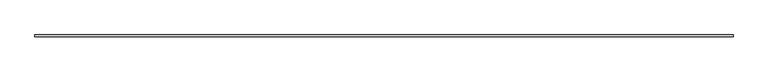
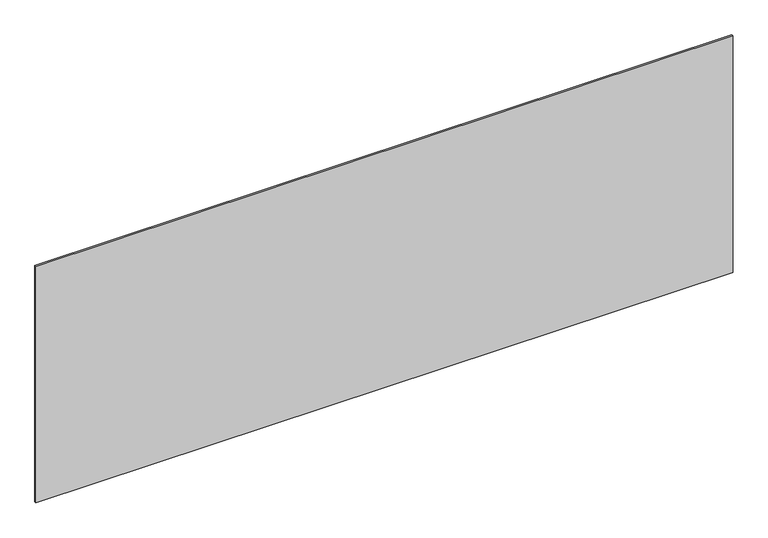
"""IFC4 building model written with IfcOpenShell, lengths in millimetres: plate geometry, Curtain-Panels_Outdoor-Material_HI-MACS_Solids : S006_Artic-White_6mm."""

from ifc_helpers import new_model, si_unit, origin, origin_with_axes, place, context, project, spatial, polyline, outline, extrude, source, transform, mapped, element, save


def plate_dbab8291(model_context):
    return source(origin(), model_context, "Body", "SweptSolid", [
        extrude(outline(polyline([(1245.0, 3.0), (1245.0, -3.0), (-1245.0, -3.0), (-1245.0, 3.0), (1245.0, 3.0)])), origin_with_axes(), (0.0, 0.0, 1.0), 893.5112313),
    ])


if __name__ == "__main__":
    model = new_model("IFC4")
    model_context = context("Model", 3, world=origin())
    ifc_project = project(units=[si_unit("LENGTHUNIT", "METRE", prefix="MILLI")], contexts=[model_context])
    site = spatial("IfcSite", under=ifc_project)
    building = spatial("IfcBuilding", under=site)
    placement = place(None, origin())
    plate_shape = plate_dbab8291(model_context)
    element("IfcPlate", 1, ObjectType="Curtain-Panels_Outdoor-Material_HI-MACS_Solids : S006_Artic-White_6mm", at=placement, inside=building, context=model_context, shape_type="MappedRepresentation", body=[
        mapped(plate_shape, transform((0.0, 0.0, 0.0), x_axis=(1.0, 0.0, 0.0), y_axis=(0.0, 1.0, 0.0), z_axis=(0.0, 0.0, 1.0))),
    ])
    save(model, "model.ifc")
